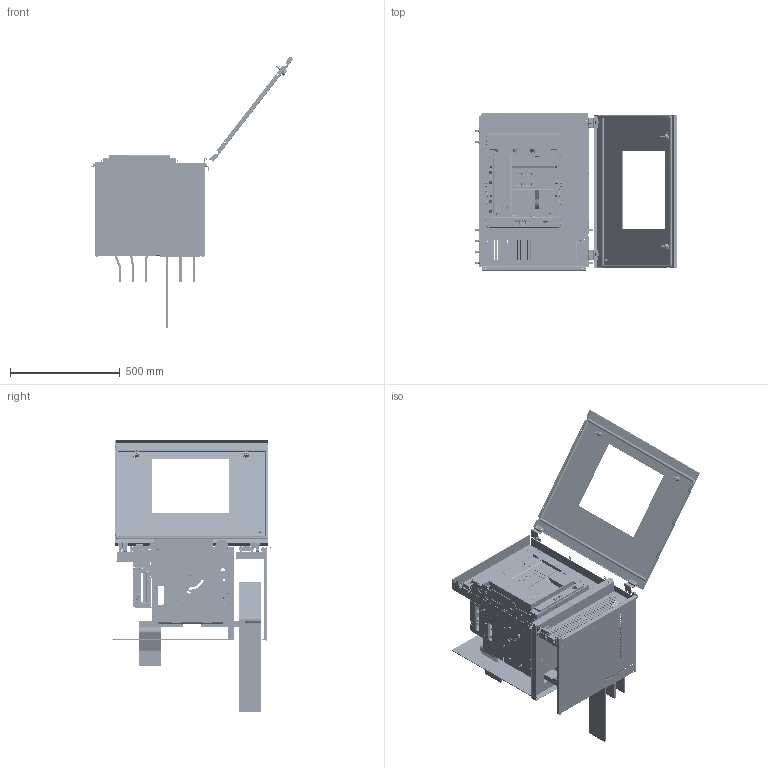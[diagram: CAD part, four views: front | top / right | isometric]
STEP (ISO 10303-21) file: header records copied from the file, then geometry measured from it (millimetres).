
FILE_DESCRIPTION(('CAx-IF Rec.Pracs.---Model Styling and Organization---1.2---2011-12-15','CAx-IF Rec.Pracs.---Geometric and Assembly Validation Properties---4.1---2014-06-16','CAx-IF Rec.Pracs.---PMI Polyline Presentation---2.0---2013-05-24'),'2;1');
FILE_NAME('R5M214IB4H61521R.stp','2021-05-05T12:49:20+03:00',(''),(''),'STEP Interface 4.4 by CT CoreTechnologie','3D_Evolution4.4 by CT CoreTechnologie','');
FILE_SCHEMA(('AUTOMOTIVE_DESIGN { 1 0 10303 214 1 1 1 1 }'));
Length unit declared in the file: millimetre
Products named in the file (31): R5M214IB4H61521R(äâóñòîðîííèé); M6 x 16-DIN 7991 ISR_thread; LSDR2W_-00; AC00C485; LSDR1W_-00; LSDR3W_-00; RB.1446.00.00.0_-00; RB.1444.00.00.0_-00; RB.1445.00.00.0_-00; RB.1446.00.00.0_-01; RB.1447.00.00.0 ÑÁ_-00 (Emax E1.2 F); RB.1447.00.01.0_-00 ( LS W); PF 7x14 MCC2.0_0700x0600; AC00C266; AC00C061_AC00C061; Ì6õ12-A5100231_straight; RB.0116.00.00.2_-00; RB.0687.00.00.1_-00; RB.1233.00.00.0_-01; RB.1597.00.00.0_-00 (LS W); RB.1226.00.00.0_-00; RB.1227.00.00.0_-00; MS737-1-1(1); MS737-1-1 Z_ ªàëâ; MS737-1-1 stop_fixed; 2000AF(630-1600A) W 3P_- 01 (¯¥à¥¤­¨¥ è¨­ë); MS737-1-1(2); LST1W_-00; RB.1227.00.00.0_-01; LST2W_-00; LST3W_-00
Assembly tree (56 placements, depth 3):
  R5M214IB4H61521R(äâóñòîðîííèé)
    M6 x 16-DIN 7991 ISR_thread  x10
    LSDR2W_-00
    AC00C485  x12
    LSDR1W_-00
    LSDR3W_-00
    RB.1446.00.00.0_-00
    RB.1444.00.00.0_-00  x2
    RB.1445.00.00.0_-00
    RB.1446.00.00.0_-01
    RB.1447.00.00.0 ÑÁ_-00 (Emax E1.2 F)
      RB.1447.00.01.0_-00 ( LS W)
      PF 7x14 MCC2.0_0700x0600
      AC00C266  x2
      AC00C061_AC00C061
      Ì6õ12-A5100231_straight
    RB.0116.00.00.2_-00  x2
    RB.0687.00.00.1_-00  x2
    RB.1233.00.00.0_-01
    RB.1597.00.00.0_-00 (LS W)
    RB.1226.00.00.0_-00
    RB.1227.00.00.0_-00
    MS737-1-1(1)
      MS737-1-1 Z_ ªàëâ
      MS737-1-1 stop_fixed
    2000AF(630-1600A) W 3P_- 01 (¯¥à¥¤­¨¥ è¨­ë)
    MS737-1-1(2)
      MS737-1-1 Z_ ªàëâ
      MS737-1-1 stop_fixed
    LST1W_-00
    RB.1227.00.00.0_-01
    LST2W_-00
    LST3W_-00
Bounding box: 921.56 x 717 x 1236.05 mm (x, y, z)
Surface area: 6329977.7 mm2 (no closed solid volume)
Topology: 0 solids, 151 shells, 8192 faces, 29251 edges, 20158 vertices
Faces by surface type: plane 4659, cylinder 2827, bspline 706
Entity records: 293907 total; most frequent: CARTESIAN_POINT 76960, DIRECTION 44154, ORIENTED_EDGE 41792, EDGE_CURVE 25714, VECTOR 18042, LINE 18042, VERTEX_POINT 18011, AXIS2_PLACEMENT_3D 13056
